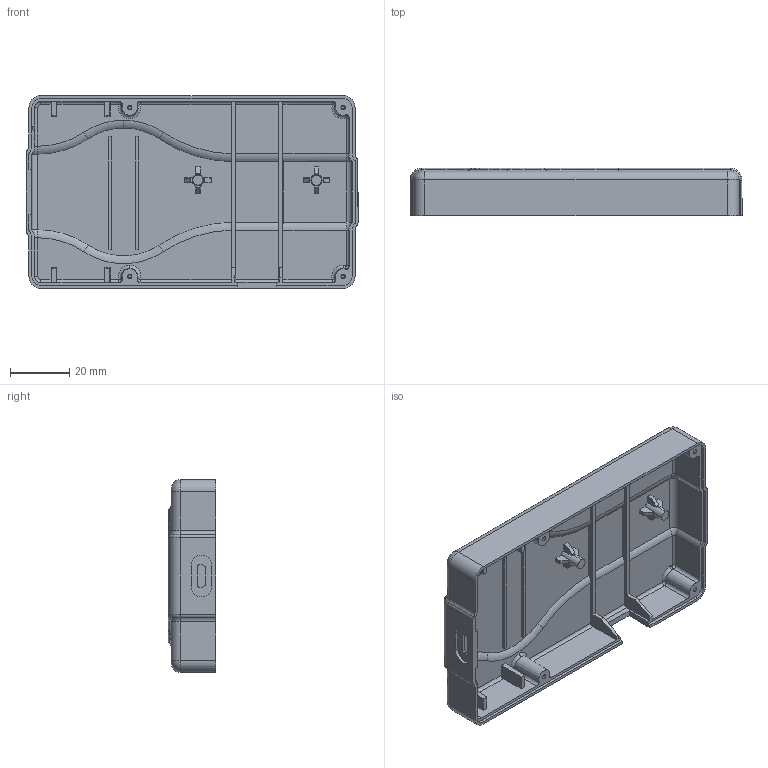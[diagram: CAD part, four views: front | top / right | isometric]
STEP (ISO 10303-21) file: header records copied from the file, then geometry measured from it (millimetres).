
FILE_DESCRIPTION (( 'STEP AP214' ), '1' );
FILE_NAME ('top cover.STEP', '2020-10-23T09:07:14', ( '' ), ( '' ), 'SwSTEP 2.0', 'SolidWorks 2020', '' );
FILE_SCHEMA (( 'AUTOMOTIVE_DESIGN' ));
Length unit declared in the file: millimetre
Products named in the file (1): top cover
Bounding box: 112 x 16 x 65 mm (x, y, z)
Volume: 23832 mm3; surface area: 25173.1 mm2
Topology: 1 solids, 1 shells, 527 faces, 1377 edges, 888 vertices
Faces by surface type: plane 251, bspline 132, cylinder 73, torus 45, cone 18, sphere 8
Entity records: 19375 total; most frequent: CARTESIAN_POINT 4857, ORIENTED_EDGE 2754, DIRECTION 2126, EDGE_CURVE 1377, VERTEX_POINT 888, VECTOR 796, LINE 796, AXIS2_PLACEMENT_3D 665
